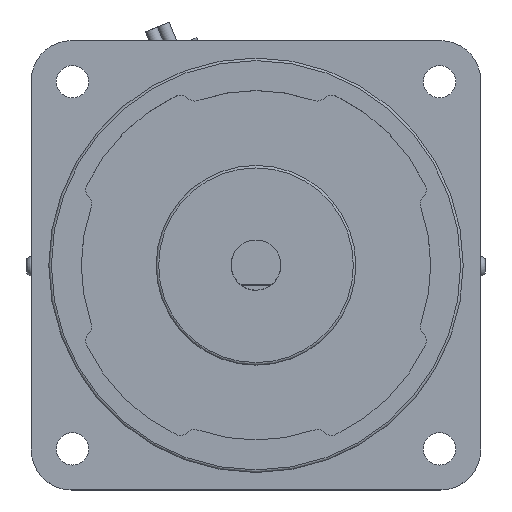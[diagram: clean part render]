
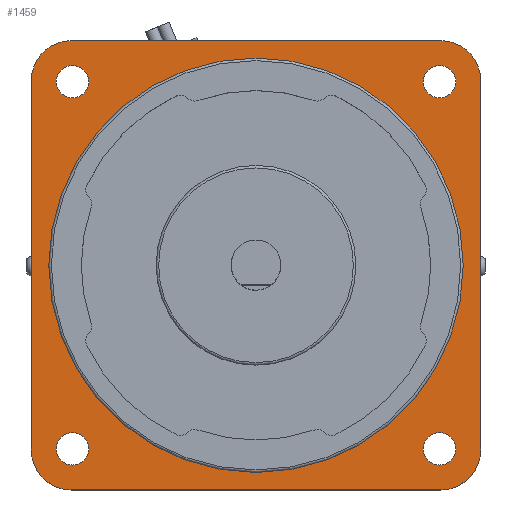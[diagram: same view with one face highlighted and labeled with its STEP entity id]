
A CAD part, top view. The second image highlights one B-rep face of the part: STEP entity #1459.
In plain terms, the highlighted planar face has unit normal (0, 0, 1).
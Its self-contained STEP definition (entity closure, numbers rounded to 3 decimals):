
#1329=CARTESIAN_POINT('',(0.,0.,105.));
#1330=DIRECTION('',(0.0,0.0,1.0));
#1331=DIRECTION('',(1.0,0.0,0.0));
#1332=AXIS2_PLACEMENT_3D('',#1329,#1330,#1331);
#1333=PLANE('',#1332);
#1334=CARTESIAN_POINT('',(37.,45.0,105.));
#1335=VERTEX_POINT('',#1334);
#1336=CARTESIAN_POINT('',(45.,37.0,105.));
#1337=VERTEX_POINT('',#1336);
#1338=CARTESIAN_POINT('',(37.,37.0,105.0));
#1339=DIRECTION('',(0.0,0.0,-1.0));
#1340=DIRECTION('',(-1.0,0.0,0.0));
#1341=AXIS2_PLACEMENT_3D('',#1338,#1339,#1340);
#1342=CIRCLE('',#1341,8.);
#1343=EDGE_CURVE('',#1335,#1337,#1342,.T.);
#1344=ORIENTED_EDGE('',*,*,#1343,.F.);
#1345=CARTESIAN_POINT('',(-37.,45.0,105.));
#1346=VERTEX_POINT('',#1345);
#1347=CARTESIAN_POINT('',(-37.,45.0,105.0));
#1348=DIRECTION('',(1.0,0.0,0.0));
#1349=VECTOR('',#1348,74.);
#1350=LINE('',#1347,#1349);
#1351=EDGE_CURVE('',#1346,#1335,#1350,.T.);
#1352=ORIENTED_EDGE('',*,*,#1351,.F.);
#1353=CARTESIAN_POINT('',(-45.,37.0,105.));
#1354=VERTEX_POINT('',#1353);
#1355=CARTESIAN_POINT('',(-37.,37.0,105.0));
#1356=DIRECTION('',(0.0,0.0,-1.0));
#1357=DIRECTION('',(0.0,-1.0,0.0));
#1358=AXIS2_PLACEMENT_3D('',#1355,#1356,#1357);
#1359=CIRCLE('',#1358,8.);
#1360=EDGE_CURVE('',#1354,#1346,#1359,.T.);
#1361=ORIENTED_EDGE('',*,*,#1360,.F.);
#1362=CARTESIAN_POINT('',(-45.,-37.0,105.));
#1363=VERTEX_POINT('',#1362);
#1364=CARTESIAN_POINT('',(-45.,-37.0,105.0));
#1365=DIRECTION('',(0.0,1.0,0.0));
#1366=VECTOR('',#1365,74.0);
#1367=LINE('',#1364,#1366);
#1368=EDGE_CURVE('',#1363,#1354,#1367,.T.);
#1369=ORIENTED_EDGE('',*,*,#1368,.F.);
#1370=CARTESIAN_POINT('',(-37.,-45.0,105.));
#1371=VERTEX_POINT('',#1370);
#1372=CARTESIAN_POINT('',(-37.,-37.0,105.0));
#1373=DIRECTION('',(0.0,0.0,-1.0));
#1374=DIRECTION('',(1.0,0.0,0.0));
#1375=AXIS2_PLACEMENT_3D('',#1372,#1373,#1374);
#1376=CIRCLE('',#1375,8.);
#1377=EDGE_CURVE('',#1371,#1363,#1376,.T.);
#1378=ORIENTED_EDGE('',*,*,#1377,.F.);
#1379=CARTESIAN_POINT('',(37.,-45.0,105.));
#1380=VERTEX_POINT('',#1379);
#1381=CARTESIAN_POINT('',(37.,-45.0,105.0));
#1382=DIRECTION('',(-1.0,0.0,0.0));
#1383=VECTOR('',#1382,74.);
#1384=LINE('',#1381,#1383);
#1385=EDGE_CURVE('',#1380,#1371,#1384,.T.);
#1386=ORIENTED_EDGE('',*,*,#1385,.F.);
#1387=CARTESIAN_POINT('',(45.,-37.0,105.));
#1388=VERTEX_POINT('',#1387);
#1389=CARTESIAN_POINT('',(37.,-37.0,105.0));
#1390=DIRECTION('',(0.0,0.0,-1.0));
#1391=DIRECTION('',(0.0,1.0,0.0));
#1392=AXIS2_PLACEMENT_3D('',#1389,#1390,#1391);
#1393=CIRCLE('',#1392,8.);
#1394=EDGE_CURVE('',#1388,#1380,#1393,.T.);
#1395=ORIENTED_EDGE('',*,*,#1394,.F.);
#1396=CARTESIAN_POINT('',(45.,37.0,105.0));
#1397=DIRECTION('',(0.0,-1.0,0.0));
#1398=VECTOR('',#1397,74.0);
#1399=LINE('',#1396,#1398);
#1400=EDGE_CURVE('',#1337,#1388,#1399,.T.);
#1401=ORIENTED_EDGE('',*,*,#1400,.F.);
#1402=EDGE_LOOP('',(#1344,#1352,#1361,#1369,#1378,#1386,#1395,#1401));
#1403=FACE_OUTER_BOUND('',#1402,.T.);
#1404=CARTESIAN_POINT('',(-33.52,36.77,105.));
#1405=VERTEX_POINT('',#1404);
#1406=CARTESIAN_POINT('',(-36.77,36.77,105.));
#1407=DIRECTION('',(0.0,0.0,-1.0));
#1408=DIRECTION('',(-1.0,0.0,0.0));
#1409=AXIS2_PLACEMENT_3D('',#1406,#1407,#1408);
#1410=CIRCLE('',#1409,3.25);
#1411=EDGE_CURVE('',#1405,#1405,#1410,.T.);
#1412=ORIENTED_EDGE('',*,*,#1411,.T.);
#1413=EDGE_LOOP('',(#1412));
#1414=FACE_BOUND('',#1413,.T.);
#1415=CARTESIAN_POINT('',(-33.52,-36.77,105.));
#1416=VERTEX_POINT('',#1415);
#1417=CARTESIAN_POINT('',(-36.77,-36.77,105.));
#1418=DIRECTION('',(0.0,0.0,-1.0));
#1419=DIRECTION('',(-1.0,0.0,0.0));
#1420=AXIS2_PLACEMENT_3D('',#1417,#1418,#1419);
#1421=CIRCLE('',#1420,3.25);
#1422=EDGE_CURVE('',#1416,#1416,#1421,.T.);
#1423=ORIENTED_EDGE('',*,*,#1422,.T.);
#1424=EDGE_LOOP('',(#1423));
#1425=FACE_BOUND('',#1424,.T.);
#1426=CARTESIAN_POINT('',(40.02,-36.77,105.));
#1427=VERTEX_POINT('',#1426);
#1428=CARTESIAN_POINT('',(36.77,-36.77,105.));
#1429=DIRECTION('',(0.0,0.0,-1.0));
#1430=DIRECTION('',(-1.0,0.0,0.0));
#1431=AXIS2_PLACEMENT_3D('',#1428,#1429,#1430);
#1432=CIRCLE('',#1431,3.25);
#1433=EDGE_CURVE('',#1427,#1427,#1432,.T.);
#1434=ORIENTED_EDGE('',*,*,#1433,.T.);
#1435=EDGE_LOOP('',(#1434));
#1436=FACE_BOUND('',#1435,.T.);
#1437=CARTESIAN_POINT('',(40.02,36.77,105.));
#1438=VERTEX_POINT('',#1437);
#1439=CARTESIAN_POINT('',(36.77,36.77,105.));
#1440=DIRECTION('',(0.0,0.0,-1.0));
#1441=DIRECTION('',(-1.0,0.0,0.0));
#1442=AXIS2_PLACEMENT_3D('',#1439,#1440,#1441);
#1443=CIRCLE('',#1442,3.25);
#1444=EDGE_CURVE('',#1438,#1438,#1443,.T.);
#1445=ORIENTED_EDGE('',*,*,#1444,.T.);
#1446=EDGE_LOOP('',(#1445));
#1447=FACE_BOUND('',#1446,.T.);
#1448=CARTESIAN_POINT('',(41.5,0.,105.));
#1449=VERTEX_POINT('',#1448);
#1450=CARTESIAN_POINT('',(0.0,0.0,105.));
#1451=DIRECTION('',(0.0,0.0,-1.0));
#1452=DIRECTION('',(-1.0,0.0,0.0));
#1453=AXIS2_PLACEMENT_3D('',#1450,#1451,#1452);
#1454=CIRCLE('',#1453,41.5);
#1455=EDGE_CURVE('',#1449,#1449,#1454,.T.);
#1456=ORIENTED_EDGE('',*,*,#1455,.T.);
#1457=EDGE_LOOP('',(#1456));
#1458=FACE_BOUND('',#1457,.T.);
#1459=ADVANCED_FACE('',(#1403,#1414,#1425,#1436,#1447,#1458),#1333,.T.);
